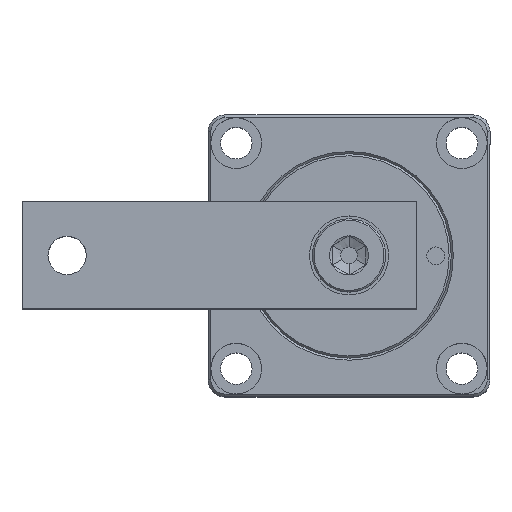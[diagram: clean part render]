
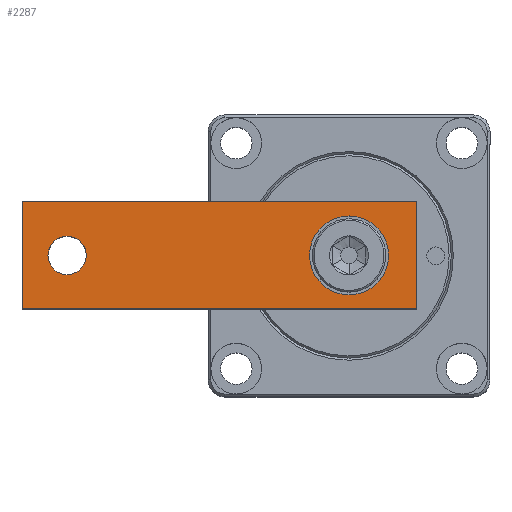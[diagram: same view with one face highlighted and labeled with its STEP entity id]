
A CAD part, top view. The second image highlights one B-rep face of the part: STEP entity #2287.
In plain terms, the highlighted planar face has unit normal (0, 0, 1).
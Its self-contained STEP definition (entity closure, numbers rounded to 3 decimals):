
#111=LINE('',#3305,#183);
#115=LINE('',#3314,#187);
#118=LINE('',#3320,#190);
#121=LINE('',#3326,#193);
#183=VECTOR('',#2883,1000.);
#187=VECTOR('',#2889,1000.);
#190=VECTOR('',#2894,1000.);
#193=VECTOR('',#2899,1000.);
#273=PLANE('',#2490);
#538=ORIENTED_EDGE('',*,*,#771,.F.);
#539=ORIENTED_EDGE('',*,*,#772,.F.);
#540=ORIENTED_EDGE('',*,*,#757,.F.);
#541=ORIENTED_EDGE('',*,*,#767,.F.);
#542=ORIENTED_EDGE('',*,*,#764,.F.);
#543=ORIENTED_EDGE('',*,*,#761,.F.);
#757=EDGE_CURVE('',#903,#904,#111,.T.);
#761=EDGE_CURVE('',#904,#907,#115,.T.);
#764=EDGE_CURVE('',#907,#909,#118,.T.);
#767=EDGE_CURVE('',#909,#903,#121,.T.);
#771=EDGE_CURVE('',#913,#913,#1013,.T.);
#772=EDGE_CURVE('',#914,#914,#1014,.T.);
#903=VERTEX_POINT('',#3306);
#904=VERTEX_POINT('',#3307);
#907=VERTEX_POINT('',#3315);
#909=VERTEX_POINT('',#3321);
#913=VERTEX_POINT('',#3335);
#914=VERTEX_POINT('',#3337);
#1013=CIRCLE('',#2491,3.4);
#1014=CIRCLE('',#2492,7.);
#1165=EDGE_LOOP('',(#538));
#1166=EDGE_LOOP('',(#539));
#1167=EDGE_LOOP('',(#540,#541,#542,#543));
#1341=FACE_BOUND('',#1165,.T.);
#1342=FACE_BOUND('',#1166,.T.);
#1343=FACE_BOUND('',#1167,.T.);
#2287=ADVANCED_FACE('',(#1341,#1342,#1343),#273,.F.);
#2490=AXIS2_PLACEMENT_3D('',#3333,#2907,#2908);
#2491=AXIS2_PLACEMENT_3D('',#3334,#2909,#2910);
#2492=AXIS2_PLACEMENT_3D('',#3336,#2911,#2912);
#2883=DIRECTION('',(0.,1.,0.));
#2889=DIRECTION('',(1.,0.,0.));
#2894=DIRECTION('',(0.,-1.,0.));
#2899=DIRECTION('',(-1.,0.,0.));
#2907=DIRECTION('',(0.,0.,-1.));
#2908=DIRECTION('',(0.,1.,0.));
#2909=DIRECTION('',(0.,0.,1.));
#2910=DIRECTION('',(1.,0.,0.));
#2911=DIRECTION('',(0.,0.,1.));
#2912=DIRECTION('',(1.,0.,0.));
#3305=CARTESIAN_POINT('',(-35.,19.,9.5));
#3306=CARTESIAN_POINT('',(-35.,0.,9.5));
#3307=CARTESIAN_POINT('',(-35.,19.,9.5));
#3314=CARTESIAN_POINT('',(-35.,19.,9.5));
#3315=CARTESIAN_POINT('',(35.,19.,9.5));
#3320=CARTESIAN_POINT('',(35.,0.,9.5));
#3321=CARTESIAN_POINT('',(35.,0.,9.5));
#3326=CARTESIAN_POINT('',(-35.,0.,9.5));
#3333=CARTESIAN_POINT('',(0.,0.,9.5));
#3334=CARTESIAN_POINT('',(-27.,9.5,9.5));
#3335=CARTESIAN_POINT('',(-23.6,9.5,9.5));
#3336=CARTESIAN_POINT('',(23.,9.5,9.5));
#3337=CARTESIAN_POINT('',(30.,9.5,9.5));
